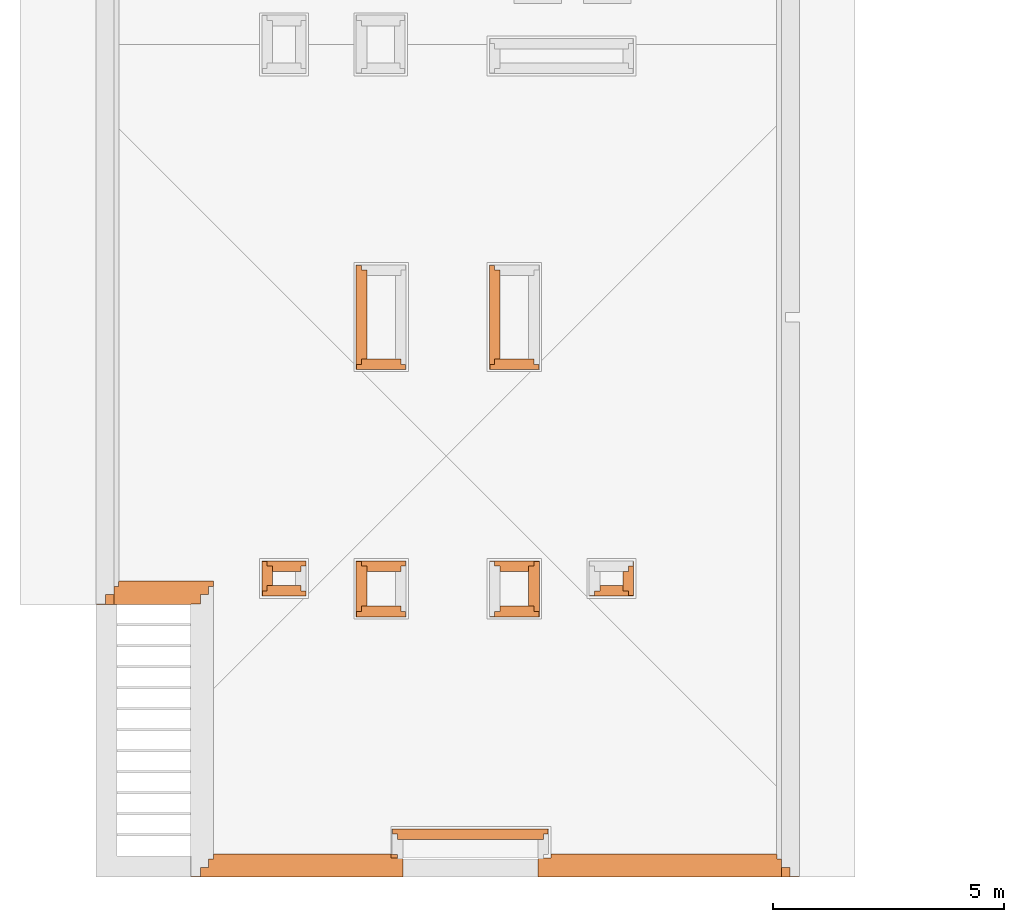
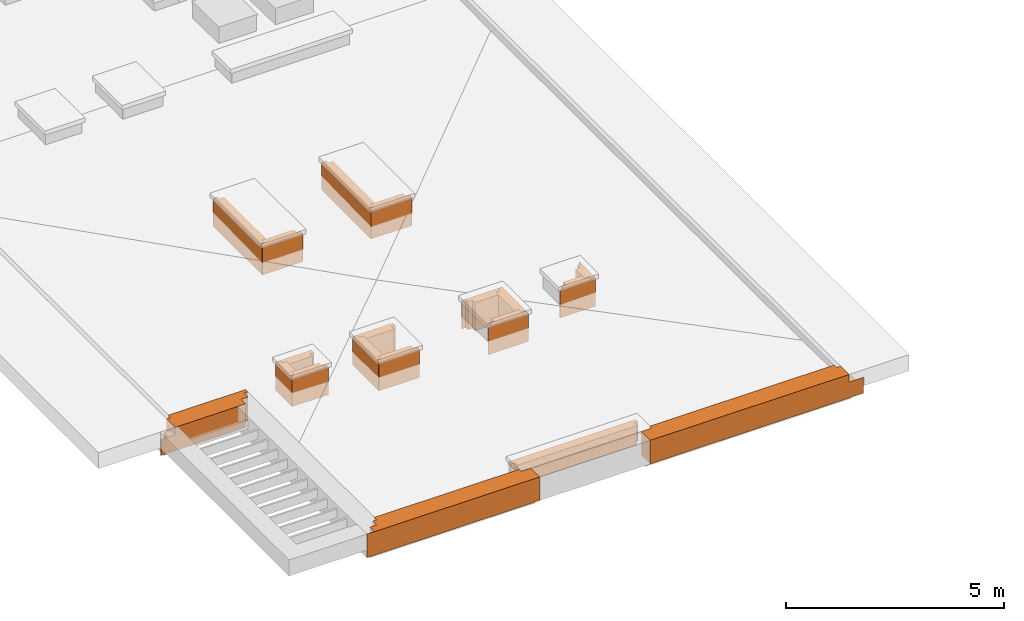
# One storey, part 7 of 16: 19 proxies.
"""IFC2X3 building model written with IfcOpenShell, lengths in millimetres."""

from ifc_helpers import new_model, entity, si_unit, converted_unit, derived_unit, money_unit, direction, frame, origin_with_axes, place, context, subcontext, project, spatial, faceted_brep, material, material_list, type_object, element, save


model = new_model("IFC2X3")

# Units and contexts
model_context = context("Model", 3, precision=0.01, world=origin_with_axes(), true_north=direction((0.34421633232, 0.938890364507)))
body_context = subcontext(model_context, "Body", "Model", "MODEL_VIEW")
ifc_project = project(units=[si_unit("LENGTHUNIT", "METRE", prefix="MILLI"), si_unit("AREAUNIT", "SQUARE_METRE"), si_unit("VOLUMEUNIT", "CUBIC_METRE"), converted_unit("PLANEANGLEUNIT", "DEGREE", entity("IfcPlaneAngleMeasure", 0.0174532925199), si_unit("PLANEANGLEUNIT", "RADIAN"), dimensions=[0, 0, 0, 0, 0, 0, 0]), si_unit("SOLIDANGLEUNIT", "STERADIAN"), money_unit("USD"), converted_unit("TIMEUNIT", "Year", entity("IfcTimeMeasure", 31556926.0), si_unit("TIMEUNIT", "SECOND"), dimensions=[0, 0, 1, 0, 0, 0, 0]), si_unit("MASSUNIT", "GRAM", prefix="KILO"), si_unit("THERMODYNAMICTEMPERATUREUNIT", "DEGREE_CELSIUS"), si_unit("LUMINOUSINTENSITYUNIT", "LUMEN"), si_unit("ENERGYUNIT", "JOULE", prefix="MEGA"), derived_unit("THERMALCONDUCTANCEUNIT", [(si_unit("POWERUNIT", "WATT"), 1), (si_unit("LENGTHUNIT", "METRE"), -1), (si_unit("THERMODYNAMICTEMPERATUREUNIT", "KELVIN"), -1)]), derived_unit("SPECIFICHEATCAPACITYUNIT", [(si_unit("ENERGYUNIT", "JOULE"), 1), (si_unit("MASSUNIT", "GRAM", prefix="KILO"), -1), (si_unit("THERMODYNAMICTEMPERATUREUNIT", "KELVIN"), -1)]), derived_unit("MASSDENSITYUNIT", [(si_unit("MASSUNIT", "GRAM", prefix="KILO"), 1), (si_unit("VOLUMEUNIT", "CUBIC_METRE"), -1)])], contexts=[model_context])

# Site, building, storey
site_placement = place(None, origin_with_axes())
site = spatial("IfcSite", under=ifc_project, at=site_placement, Name="USTRONIE MORSKIE", CompositionType="ELEMENT")
building_placement = place(site_placement, origin_with_axes())
building = spatial("IfcBuilding", under=site, at=building_placement, Name="Budynek", CompositionType="ELEMENT")
storey_placement = place(building_placement, frame((0.0, 0.0, 19000.0), z_axis=(0.0, 0.0, 1.0), x_axis=(1.0, 0.0, 0.0)))
storey = spatial("IfcBuildingStorey", under=building, at=storey_placement, Name="DACH", CompositionType="ELEMENT", Elevation=19000.0)

# Proxies
ifc_material_1 = material(Name="Tynk zewnętrzny")
ifc_material_2 = material(Name="Wełna ELEW")
ifc_material_3 = material(Name="Bloczki silikatowe")
ifc_material_list_1 = material_list([ifc_material_1, ifc_material_2, ifc_material_3, ifc_material_2, ifc_material_1])
building_element_proxy_type_1 = type_object("IfcBuildingElementProxyType", Name="18 SILIKAT+20-10 500", PredefinedType="NOTDEFINED")
proxy_1_placement = place(storey_placement, frame((353217.920919, 709101.199036, -160.0), z_axis=(0.0, 0.0, 1.0), x_axis=(1.0, 0.0, 0.0)))
element("IfcBuildingElementProxy", 1, at=proxy_1_placement, inside=storey, type_object=building_element_proxy_type_1, material=ifc_material_list_1, Name="Œciana-006", context=body_context, shape_type="Brep", body=[
    faceted_brep([(4120.00158398, 290.0, 660.0), (4120.00158398, 290.0, 540.0), (4160.0, 290.0, 540.0), (4160.0, 290.0, 5.0), (290.0, 290.0, 5.0), (290.0, 290.0, 660.0), (4120.00158398, 280.0, 660.0), (4120.00158398, 280.0, 540.0), (4160.0, 280.0, 540.0), (4160.0, 280.0, 5.0), (290.0, 280.0, 5.0), (290.0, 280.0, 660.0)], [[[0, 1, 2, 3, 4, 5]], [[1, 0, 6, 7]], [[8, 2, 1, 7]], [[2, 8, 9, 3]], [[4, 3, 9, 10]], [[4, 10, 11, 5]], [[6, 0, 5, 11]], [[7, 6, 11, 10, 9, 8]]]),
    faceted_brep([(4380.0, 200.0, 540.0), (4380.0, 200.0, 660.0), (4380.0, 180.0, 660.0), (4380.0, 180.0, 540.0), (4120.00158398, 200.0, 660.0), (4260.0, 200.0, 540.0), (4120.00158398, 200.0, 540.0), (4120.00158398, 280.0, 660.0), (280.0, 280.0, 660.0), (280.0, 180.0, 660.0), (280.0, 180.0, 5.0), (4260.0, 180.0, 5.0), (4260.0, 180.0, 540.0), (4260.0, 280.0, 540.0), (4120.00158398, 280.0, 540.0), (4260.0, 280.0, 5.0), (280.0, 280.0, 5.0)], [[[0, 1, 2, 3]], [[4, 1, 0, 5, 6]], [[4, 7, 8, 9, 2, 1]], [[10, 11, 12, 3, 2, 9]], [[5, 0, 3, 12]], [[5, 13, 14, 6]], [[14, 7, 4, 6]], [[14, 13, 15, 16, 8, 7]], [[16, 10, 9, 8]], [[16, 15, 11, 10]], [[13, 5, 12, 11, 15]]]),
    faceted_brep([(4380.0, 0.0, 0.0), (180.0, 0.0, 0.0), (180.0, 180.0, 0.0), (4380.0, 180.0, 0.0), (4380.0, 0.0, 660.0), (180.0, 0.0, 660.0), (180.0, 180.0, 660.0), (4380.0, 180.0, 660.0)], [[[0, 1, 2, 3]], [[4, 5, 1, 0]], [[6, 2, 1, 5]], [[3, 2, 6, 7]], [[7, 4, 0, 3]], [[7, 6, 5, 4]]]),
    faceted_brep([(0.0, -200.0, 0.0), (0.0, 0.0, 0.0), (4380.0, 0.0, 0.0), (4380.0, -200.0, 0.0), (0.0, -200.0, 660.0), (0.0, 0.0, 660.0), (4380.0, 0.0, 660.0), (4380.0, -200.0, 660.0)], [[[0, 1, 2, 3]], [[1, 0, 4, 5]], [[1, 5, 6, 2]], [[7, 3, 2, 6]], [[4, 0, 3, 7]], [[5, 4, 7, 6]]]),
    faceted_brep([(-200.0, -210.0, 0.0), (-200.0, -200.0, 0.0), (4380.0, -200.0, 0.0), (4380.0, -210.0, 0.0), (-200.0, -210.0, 660.0), (-200.0, -200.0, 660.0), (4380.0, -200.0, 660.0), (4380.0, -210.0, 660.0)], [[[0, 1, 2, 3]], [[1, 0, 4, 5]], [[1, 5, 6, 2]], [[7, 3, 2, 6]], [[4, 0, 3, 7]], [[5, 4, 7, 6]]]),
])
proxy_2_placement = place(storey_placement, frame((351167.920919, 715001.199036, -160.0), z_axis=(0.0, 0.0, 1.0), x_axis=(1.0, 0.0, 0.0)))
element("IfcBuildingElementProxy", 2, at=proxy_2_placement, inside=storey, type_object=building_element_proxy_type_1, material=ifc_material_list_1, Name="Œciana-006", context=body_context, shape_type="Brep", body=[
    faceted_brep([(2340.0, 280.0, 5.0), (2340.0, 290.0, 5.0), (2340.0, 290.0, 660.0), (2340.0, 280.0, 660.0), (290.0, 290.0, 5.0), (290.0, 280.0, 5.0), (290.0, 290.0, 660.0), (290.0, 280.0, 660.0)], [[[0, 1, 2, 3]], [[4, 1, 0, 5]], [[1, 4, 6, 2]], [[3, 2, 6, 7]], [[5, 0, 3, 7]], [[4, 5, 7, 6]]]),
    faceted_brep([(2330.0, 180.0, 5.0), (2330.0, 280.0, 5.0), (2330.0, 280.0, 660.0), (2330.0, 180.0, 660.0), (280.0, 280.0, 5.0), (280.0, 180.0, 5.0), (280.0, 280.0, 660.0), (280.0, 180.0, 660.0)], [[[0, 1, 2, 3]], [[4, 1, 0, 5]], [[1, 4, 6, 2]], [[3, 2, 6, 7]], [[5, 0, 3, 7]], [[4, 5, 7, 6]]]),
    faceted_brep([(2230.0, 180.0, 0.0), (2230.0, 0.0, 0.0), (180.0, 0.0, 0.0), (180.0, 180.0, 0.0), (2230.0, 180.0, 660.0), (2230.0, 0.0, 660.0), (180.0, 0.0, 660.0), (180.0, 180.0, 660.0)], [[[0, 1, 2, 3]], [[1, 0, 4, 5]], [[1, 5, 6, 2]], [[7, 3, 2, 6]], [[4, 0, 3, 7]], [[5, 4, 7, 6]]]),
    faceted_brep([(0.0, 0.0, 450.0), (180.0, 0.0, 450.0), (180.0, 0.0, 660.0), (2050.0, 0.0, 660.0), (2050.0, 0.0, 0.0), (0.0, 0.0, 0.0), (0.0, -200.0, 450.0), (180.0, -200.0, 450.0), (180.0, -200.0, 660.0), (2050.0, -200.0, 660.0), (2050.0, -200.0, 0.0), (0.0, -200.0, 0.0)], [[[0, 1, 2, 3, 4, 5]], [[1, 0, 6, 7]], [[2, 1, 7, 8]], [[2, 8, 9, 3]], [[10, 4, 3, 9]], [[4, 10, 11, 5]], [[6, 0, 5, 11]], [[7, 6, 11, 10, 9, 8]]]),
    faceted_brep([(-200.0, -200.0, 450.0), (180.0, -200.0, 450.0), (180.0, -200.0, 660.0), (1850.0, -200.0, 660.0), (1850.0, -200.0, 0.0), (-200.0, -200.0, 0.0), (-200.0, -210.0, 450.0), (180.0, -210.0, 450.0), (180.0, -210.0, 660.0), (1850.0, -210.0, 660.0), (1850.0, -210.0, 0.0), (-200.0, -210.0, 0.0)], [[[0, 1, 2, 3, 4, 5]], [[1, 0, 6, 7]], [[2, 1, 7, 8]], [[2, 8, 9, 3]], [[10, 4, 3, 9]], [[4, 10, 11, 5]], [[6, 0, 5, 11]], [[7, 6, 11, 10, 9, 8]]]),
])
proxy_3_placement = place(storey_placement, frame((360517.919335, 709101.199036, -160.0), z_axis=(0.0, 0.0, 1.0), x_axis=(1.0, 0.0, 0.0)))
element("IfcBuildingElementProxy", 3, at=proxy_3_placement, inside=storey, type_object=building_element_proxy_type_1, material=ifc_material_list_1, Name="Œciana-006", context=body_context, shape_type="Brep", body=[
    faceted_brep([(220.0, 290.0, 540.0), (280.001583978, 290.0, 540.0), (280.001583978, 290.0, 660.0), (5160.00158398, 290.0, 660.0), (5160.00158398, 290.0, 5.0), (220.0, 290.0, 5.0), (220.0, 280.0, 540.0), (280.001583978, 280.0, 540.0), (280.001583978, 280.0, 660.0), (5160.00158398, 280.0, 660.0), (5160.00158398, 280.0, 5.0), (220.0, 280.0, 5.0)], [[[0, 1, 2, 3, 4, 5]], [[1, 0, 6, 7]], [[8, 2, 1, 7]], [[2, 8, 9, 3]], [[10, 4, 3, 9]], [[5, 4, 10, 11]], [[6, 0, 5, 11]], [[7, 6, 11, 10, 9, 8]]]),
    faceted_brep([(120.0, 280.0, 540.0), (280.001583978, 280.0, 540.0), (280.001583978, 280.0, 660.0), (5170.00158398, 280.0, 660.0), (5170.00158398, 280.0, 5.0), (120.0, 280.0, 5.0), (120.0, 200.0, 540.0), (280.001583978, 200.0, 540.0), (280.001583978, 200.0, 660.0), (0.0, 200.0, 660.0), (0.0, 180.0, 660.0), (5170.00158398, 180.0, 660.0), (5170.00158398, 180.0, 5.0), (120.0, 180.0, 5.0), (120.0, 180.0, 540.0), (0.0, 200.0, 540.0), (0.0, 180.0, 540.0)], [[[0, 1, 2, 3, 4, 5]], [[1, 0, 6, 7]], [[8, 2, 1, 7]], [[8, 9, 10, 11, 3, 2]], [[12, 4, 3, 11]], [[5, 4, 12, 13]], [[6, 0, 5, 13, 14]], [[9, 8, 7, 6, 15]], [[9, 15, 16, 10]], [[13, 12, 11, 10, 16, 14]], [[15, 6, 14, 16]]]),
    faceted_brep([(5270.00158398, 0.0, 0.0), (0.0, 0.0, 0.0), (0.0, 180.0, 0.0), (5270.00158398, 180.0, 0.0), (5270.00158398, 0.0, 660.0), (0.0, 0.0, 660.0), (0.0, 180.0, 660.0), (5270.00158398, 180.0, 660.0)], [[[0, 1, 2, 3]], [[4, 5, 1, 0]], [[1, 5, 6, 2]], [[3, 2, 6, 7]], [[7, 4, 0, 3]], [[7, 6, 5, 4]]]),
    faceted_brep([(5270.00158398, 0.0, 450.0), (5450.00158398, 0.0, 450.0), (5450.00158398, 0.0, 0.0), (0.0, 0.0, 0.0), (0.0, 0.0, 660.0), (5270.00158398, 0.0, 660.0), (5450.00158398, -200.0, 450.0), (5270.00158398, -200.0, 450.0), (5450.00158398, -200.0, 0.0), (0.0, -200.0, 0.0), (0.0, -200.0, 660.0), (5270.00158398, -200.0, 660.0)], [[[0, 1, 2, 3, 4, 5]], [[6, 1, 0, 7]], [[1, 6, 8, 2]], [[9, 3, 2, 8]], [[10, 4, 3, 9]], [[11, 5, 4, 10]], [[7, 0, 5, 11]], [[7, 11, 10, 9, 8, 6]]]),
    faceted_brep([(5270.00158398, -200.0, 450.0), (5650.00158398, -200.0, 450.0), (5650.00158398, -200.0, 0.0), (0.0, -200.0, 0.0), (0.0, -200.0, 660.0), (5270.00158398, -200.0, 660.0), (5650.00158398, -210.0, 450.0), (5270.00158398, -210.0, 450.0), (5650.00158398, -210.0, 0.0), (0.0, -210.0, 0.0), (0.0, -210.0, 660.0), (5270.00158398, -210.0, 660.0)], [[[0, 1, 2, 3, 4, 5]], [[6, 1, 0, 7]], [[1, 6, 8, 2]], [[9, 3, 2, 8]], [[10, 4, 3, 9]], [[11, 5, 4, 10]], [[7, 0, 5, 11]], [[7, 11, 10, 9, 8, 6]]]),
])
ifc_material_list_2 = material_list([ifc_material_1, ifc_material_2, ifc_material_3])
building_element_proxy_type_2 = type_object("IfcBuildingElementProxyType", Name="12+10 kominy 230", PredefinedType="NOTDEFINED")
proxy_4_placement = place(storey_placement, frame((354777.922503, 715501.199024, -160.0), z_axis=(0.0, 0.0, 1.0), x_axis=(1.0, 0.0, 0.0)))
element("IfcBuildingElementProxy", 4, at=proxy_4_placement, inside=storey, type_object=building_element_proxy_type_2, material=ifc_material_list_2, Name="Œciana-006", context=body_context, shape_type="Brep", body=[
    faceted_brep([(729.998416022, 220.0, 5.0), (729.998416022, 230.0, 5.0), (729.998416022, 230.0, 800.000001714), (729.998416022, 220.0, 800.000001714), (-220.0, 230.0, 5.0), (-220.0, 220.0, 5.0), (-220.0, 230.0, 800.000001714), (-220.0, 220.0, 800.000001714)], [[[0, 1, 2, 3]], [[4, 1, 0, 5]], [[1, 4, 6, 2]], [[3, 2, 6, 7]], [[5, 0, 3, 7]], [[4, 5, 7, 6]]]),
    faceted_brep([(719.998416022, 120.0, 5.0), (719.998416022, 220.0, 5.0), (719.998416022, 220.0, 800.000001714), (719.998416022, 120.0, 800.000001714), (-120.0, 220.0, 5.0), (-120.0, 120.0, 5.0), (-120.0, 220.0, 800.000001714), (-120.0, 120.0, 800.000001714)], [[[0, 1, 2, 3]], [[4, 1, 0, 5]], [[1, 4, 6, 2]], [[3, 2, 6, 7]], [[5, 0, 3, 7]], [[4, 5, 7, 6]]]),
    faceted_brep([(619.998416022, 0.0, 800.000001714), (619.998416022, 120.0, 800.000001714), (0.0, 120.0, 800.000001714), (0.0, 0.0, 800.000001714), (619.998416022, 0.0, 0.0), (619.998416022, 120.0, 0.0), (0.0, 120.0, 0.0), (0.0, 0.0, 0.0)], [[[0, 1, 2, 3]], [[1, 0, 4, 5]], [[1, 5, 6, 2]], [[7, 3, 2, 6]], [[4, 0, 3, 7]], [[5, 4, 7, 6]]]),
])
proxy_5_placement = place(storey_placement, frame((357597.920919, 709701.199036, -160.0), z_axis=(0.0, 0.0, 1.0), x_axis=(1.0, 0.0, 0.0)))
element("IfcBuildingElementProxy", 5, at=proxy_5_placement, inside=storey, type_object=building_element_proxy_type_2, material=ifc_material_list_2, Name="Œciana-006", context=body_context, shape_type="Brep", body=[
    faceted_brep([(3149.99841602, 220.0, 5.0), (3149.99841602, 230.0, 5.0), (3149.99841602, 230.0, 540.0), (3149.99841602, 220.0, 540.0), (-230.0, 230.0, 5.0), (-230.0, 220.0, 5.0), (-230.0, 230.0, 540.0), (-230.0, 220.0, 540.0)], [[[0, 1, 2, 3]], [[4, 1, 0, 5]], [[1, 4, 6, 2]], [[3, 2, 6, 7]], [[5, 0, 3, 7]], [[4, 5, 7, 6]]]),
    faceted_brep([(3139.99841602, 120.0, 5.0), (3139.99841602, 220.0, 5.0), (3139.99841602, 220.0, 540.0), (3139.99841602, 120.0, 540.0), (-220.0, 220.0, 5.0), (-220.0, 120.0, 5.0), (-220.0, 220.0, 540.0), (-220.0, 120.0, 540.0)], [[[0, 1, 2, 3]], [[4, 1, 0, 5]], [[1, 4, 6, 2]], [[3, 2, 6, 7]], [[5, 0, 3, 7]], [[4, 5, 7, 6]]]),
    faceted_brep([(3039.99841602, 0.0, 540.0), (3039.99841602, 120.0, 540.0), (-120.0, 120.0, 540.0), (-120.0, 0.0, 540.0), (3039.99841602, 0.0, 0.0), (3039.99841602, 120.0, 0.0), (-120.0, 120.0, 0.0), (-120.0, 0.0, 0.0)], [[[0, 1, 2, 3]], [[1, 0, 4, 5]], [[1, 5, 6, 2]], [[7, 3, 2, 6]], [[4, 0, 3, 7]], [[5, 4, 7, 6]]]),
])
proxy_6_placement = place(storey_placement, frame((359697.917526, 720101.199036, -160.0), z_axis=(0.0, 0.0, 1.0), x_axis=(0.0, 1.0, 0.0)))
element("IfcBuildingElementProxy", 6, at=proxy_6_placement, inside=storey, type_object=building_element_proxy_type_2, material=ifc_material_list_2, Name="Œciana-006", context=body_context, shape_type="Brep", body=[
    faceted_brep([(1600.0153809, 220.0, 5.0), (2030.0, 220.0, 5.0), (2030.0, 220.0, 800.000001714), (-220.0, 220.0, 800.000001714), (-220.0, 220.0, 5.0), (200.015380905, 220.0, 5.0), (2030.0, 230.0, 5.0), (1600.0153809, 230.0, 5.0), (2030.0, 230.0, 800.000001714), (-220.0, 230.0, 800.000001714), (-220.0, 230.0, 5.0), (200.015380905, 230.0, 5.0)], [[[0, 1, 2, 3, 4, 5]], [[6, 1, 0, 7]], [[1, 6, 8, 2]], [[2, 8, 9, 3]], [[10, 4, 3, 9]], [[11, 5, 4, 10]], [[7, 0, 5, 11]], [[6, 7, 11, 10, 9, 8]]]),
    faceted_brep([(2020.0, 120.0, 5.0), (2020.0, 120.0, 800.000001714), (-120.0, 120.0, 800.000001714), (-120.0, 120.0, 5.0), (2020.0, 220.0, 5.0), (2020.0, 220.0, 800.000001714), (-120.0, 220.0, 800.000001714), (-120.0, 220.0, 5.0)], [[[0, 1, 2, 3]], [[0, 4, 5, 1]], [[1, 5, 6, 2]], [[7, 3, 2, 6]], [[4, 0, 3, 7]], [[4, 7, 6, 5]]]),
    faceted_brep([(1920.0, 0.0, 800.000001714), (1920.0, 120.0, 800.000001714), (0.0, 120.0, 800.000001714), (0.0, 0.0, 800.000001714), (1920.0, 0.0, 0.0), (1920.0, 120.0, 0.0), (0.0, 120.0, 0.0), (0.0, 0.0, 0.0)], [[[0, 1, 2, 3]], [[1, 0, 4, 5]], [[1, 5, 6, 2]], [[7, 3, 2, 6]], [[4, 0, 3, 7]], [[5, 4, 7, 6]]]),
])
proxy_7_placement = place(storey_placement, frame((356817.920919, 715501.199481, -160.0), z_axis=(0.0, 0.0, 1.0), x_axis=(1.0, 0.0, 0.0)))
element("IfcBuildingElementProxy", 7, at=proxy_7_placement, inside=storey, type_object=building_element_proxy_type_2, material=ifc_material_list_2, Name="Œciana-006", context=body_context, shape_type="Brep", body=[
    faceted_brep([(850.0, 220.0, 5.0), (850.0, 230.0, 5.0), (850.0, 230.0, 800.000001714), (850.0, 220.0, 800.000001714), (-220.0, 230.0, 5.0), (-220.0, 220.0, 5.0), (-220.0, 230.0, 800.000001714), (-220.0, 220.0, 800.000001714)], [[[0, 1, 2, 3]], [[4, 1, 0, 5]], [[1, 4, 6, 2]], [[3, 2, 6, 7]], [[5, 0, 3, 7]], [[4, 5, 7, 6]]]),
    faceted_brep([(840.0, 120.0, 5.0), (840.0, 220.0, 5.0), (840.0, 220.0, 800.000001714), (840.0, 120.0, 800.000001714), (-120.0, 220.0, 5.0), (-120.0, 120.0, 5.0), (-120.0, 220.0, 800.000001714), (-120.0, 120.0, 800.000001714)], [[[0, 1, 2, 3]], [[4, 1, 0, 5]], [[1, 4, 6, 2]], [[3, 2, 6, 7]], [[5, 0, 3, 7]], [[4, 5, 7, 6]]]),
    faceted_brep([(740.0, 0.0, 800.000001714), (740.0, 120.0, 800.000001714), (0.0, 120.0, 800.000001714), (0.0, 0.0, 800.000001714), (740.0, 0.0, 0.0), (740.0, 120.0, 0.0), (0.0, 120.0, 0.0), (0.0, 0.0, 0.0)], [[[0, 1, 2, 3]], [[1, 0, 4, 5]], [[1, 5, 6, 2]], [[7, 3, 2, 6]], [[4, 0, 3, 7]], [[5, 4, 7, 6]]]),
])
proxy_8_placement = place(storey_placement, frame((360317.920919, 720101.199036, -160.0), z_axis=(0.0, 0.0, 1.0), x_axis=(-1.0, 0.0, 0.0)))
element("IfcBuildingElementProxy", 8, at=proxy_8_placement, inside=storey, type_object=building_element_proxy_type_2, material=ifc_material_list_2, Name="Œciana-006", context=body_context, shape_type="Brep", body=[
    faceted_brep([(-230.0, 230.0, 5.0), (-230.0, 220.0, 5.0), (-230.0, 220.0, 800.000001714), (-230.0, 230.0, 800.000001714), (850.003392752, 220.0, 5.0), (850.003392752, 230.0, 5.0), (850.003392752, 220.0, 800.000001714), (850.003392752, 230.0, 800.000001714)], [[[0, 1, 2, 3]], [[4, 1, 0, 5]], [[1, 4, 6, 2]], [[6, 7, 3, 2]], [[5, 0, 3, 7]], [[4, 5, 7, 6]]]),
    faceted_brep([(-220.0, 220.0, 5.0), (-220.0, 120.0, 5.0), (-220.0, 120.0, 800.000001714), (-220.0, 220.0, 800.000001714), (840.003392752, 120.0, 5.0), (840.003392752, 220.0, 5.0), (840.003392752, 120.0, 800.000001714), (840.003392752, 220.0, 800.000001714)], [[[0, 1, 2, 3]], [[4, 1, 0, 5]], [[1, 4, 6, 2]], [[6, 7, 3, 2]], [[5, 0, 3, 7]], [[4, 5, 7, 6]]]),
    faceted_brep([(740.003392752, 0.0, 800.000001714), (740.003392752, 120.0, 800.000001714), (-120.0, 120.0, 800.000001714), (-120.0, 0.0, 800.000001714), (740.003392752, 0.0, 0.0), (740.003392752, 120.0, 0.0), (-120.0, 120.0, 0.0), (-120.0, 0.0, 0.0)], [[[0, 1, 2, 3]], [[1, 0, 4, 5]], [[1, 5, 6, 2]], [[7, 3, 2, 6]], [[4, 0, 3, 7]], [[5, 4, 7, 6]]]),
])
ifc_material_list_3 = material_list([ifc_material_3, ifc_material_2, ifc_material_1])
proxy_9_placement = place(storey_placement, frame((362357.920919, 715201.190644, -160.0), z_axis=(0.0, 0.0, 1.0), x_axis=(0.0, 1.0, 0.0)))
element("IfcBuildingElementProxy", 9, at=proxy_9_placement, inside=storey, type_object=building_element_proxy_type_2, material=ifc_material_list_3, Name="Œciana-006", context=body_context, shape_type="Brep", body=[
    faceted_brep([(300.008836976, 0.0, 0.0), (300.008836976, -120.0, 0.0), (-120.0, -120.0, 0.0), (-120.0, 0.0, 0.0), (300.008836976, 0.0, 800.000001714), (300.008836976, -120.0, 800.000001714), (-120.0, -120.0, 800.000001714), (-120.0, 0.0, 800.000001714)], [[[0, 1, 2, 3]], [[1, 0, 4, 5]], [[1, 5, 6, 2]], [[7, 3, 2, 6]], [[4, 0, 3, 7]], [[5, 4, 7, 6]]]),
    faceted_brep([(-220.0, -220.0, 5.0), (420.008836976, -220.0, 5.0), (420.008836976, -220.0, 800.000001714), (-220.0, -220.0, 800.000001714), (420.008836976, -120.0, 5.0), (-220.0, -120.0, 5.0), (420.008836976, -120.0, 800.000001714), (-220.0, -120.0, 800.000001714)], [[[0, 1, 2, 3]], [[4, 1, 0, 5]], [[1, 4, 6, 2]], [[2, 6, 7, 3]], [[5, 0, 3, 7]], [[4, 5, 7, 6]]]),
    faceted_brep([(-230.0, -230.0, 5.0), (520.008836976, -230.0, 5.0), (520.008836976, -230.0, 800.000001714), (-230.0, -230.0, 800.000001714), (520.008836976, -220.0, 5.0), (-230.0, -220.0, 5.0), (520.008836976, -220.0, 800.000001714), (-230.0, -220.0, 800.000001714)], [[[0, 1, 2, 3]], [[4, 1, 0, 5]], [[1, 4, 6, 2]], [[2, 6, 7, 3]], [[5, 0, 3, 7]], [[4, 5, 7, 6]]]),
])
proxy_10_placement = place(storey_placement, frame((359697.921119, 714751.197058, -160.0), z_axis=(0.0, 0.0, 1.0), x_axis=(1.0, 0.0, 0.0)))
element("IfcBuildingElementProxy", 10, at=proxy_10_placement, inside=storey, type_object=building_element_proxy_type_2, material=ifc_material_list_3, Name="Œciana-006", context=body_context, shape_type="Brep", body=[
    faceted_brep([(740.00070126, 0.0, 0.0), (740.00070126, -120.0, 0.0), (0.0, -120.0, 0.0), (0.0, 0.0, 0.0), (740.00070126, 0.0, 800.000001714), (740.00070126, -120.0, 800.000001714), (0.0, -120.0, 800.000001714), (0.0, 0.0, 800.000001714)], [[[0, 1, 2, 3]], [[1, 0, 4, 5]], [[1, 5, 6, 2]], [[7, 3, 2, 6]], [[4, 0, 3, 7]], [[5, 4, 7, 6]]]),
    faceted_brep([(840.00070126, -220.0, 5.0), (840.00070126, -120.0, 5.0), (840.00070126, -120.0, 800.000001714), (840.00070126, -220.0, 800.000001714), (-120.0, -120.0, 5.0), (-120.0, -220.0, 5.0), (-120.0, -120.0, 800.000001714), (-120.0, -220.0, 800.000001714)], [[[0, 1, 2, 3]], [[4, 1, 0, 5]], [[1, 4, 6, 2]], [[3, 2, 6, 7]], [[5, 0, 3, 7]], [[4, 5, 7, 6]]]),
    faceted_brep([(850.00070126, -230.0, 5.0), (850.00070126, -220.0, 5.0), (850.00070126, -220.0, 800.000001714), (850.00070126, -230.0, 800.000001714), (-220.0, -220.0, 5.0), (-220.0, -230.0, 5.0), (-220.0, -220.0, 800.000001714), (-220.0, -230.0, 800.000001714)], [[[0, 1, 2, 3]], [[4, 1, 0, 5]], [[1, 4, 6, 2]], [[3, 2, 6, 7]], [[5, 0, 3, 7]], [[4, 5, 7, 6]]]),
])
proxy_11_placement = place(storey_placement, frame((356817.920919, 720101.199036, -160.0), z_axis=(0.0, 0.0, 1.0), x_axis=(0.0, 1.0, 0.0)))
element("IfcBuildingElementProxy", 11, at=proxy_11_placement, inside=storey, type_object=building_element_proxy_type_2, material=ifc_material_list_2, Name="Œciana-006", context=body_context, shape_type="Brep", body=[
    faceted_brep([(1600.0153809, 220.0, 5.0), (2030.0, 220.0, 5.0), (2030.0, 220.0, 800.000001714), (-220.0, 220.0, 800.000001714), (-220.0, 220.0, 5.0), (200.015380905, 220.0, 5.0), (2030.0, 230.0, 5.0), (1600.0153809, 230.0, 5.0), (2030.0, 230.0, 800.000001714), (-220.0, 230.0, 800.000001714), (-220.0, 230.0, 5.0), (200.015380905, 230.0, 5.0)], [[[0, 1, 2, 3, 4, 5]], [[6, 1, 0, 7]], [[1, 6, 8, 2]], [[2, 8, 9, 3]], [[10, 4, 3, 9]], [[11, 5, 4, 10]], [[7, 0, 5, 11]], [[6, 7, 11, 10, 9, 8]]]),
    faceted_brep([(2020.0, 120.0, 5.0), (2020.0, 120.0, 800.000001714), (-120.0, 120.0, 800.000001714), (-120.0, 120.0, 5.0), (2020.0, 220.0, 5.0), (2020.0, 220.0, 800.000001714), (-120.0, 220.0, 800.000001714), (-120.0, 220.0, 5.0)], [[[0, 1, 2, 3]], [[0, 4, 5, 1]], [[1, 5, 6, 2]], [[7, 3, 2, 6]], [[4, 0, 3, 7]], [[4, 7, 6, 5]]]),
    faceted_brep([(1920.0, 0.0, 800.000001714), (1920.0, 120.0, 800.000001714), (0.0, 120.0, 800.000001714), (0.0, 0.0, 800.000001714), (1920.0, 0.0, 0.0), (1920.0, 120.0, 0.0), (0.0, 120.0, 0.0), (0.0, 0.0, 0.0)], [[[0, 1, 2, 3]], [[1, 0, 4, 5]], [[1, 5, 6, 2]], [[7, 3, 2, 6]], [[4, 0, 3, 7]], [[5, 4, 7, 6]]]),
])
proxy_12_placement = place(storey_placement, frame((357437.920896, 720101.199036, -160.0), z_axis=(0.0, 0.0, 1.0), x_axis=(-1.0, 0.0, 0.0)))
element("IfcBuildingElementProxy", 12, at=proxy_12_placement, inside=storey, type_object=building_element_proxy_type_2, material=ifc_material_list_2, Name="Œciana-006", context=body_context, shape_type="Brep", body=[
    faceted_brep([(-230.0, 230.0, 5.0), (-230.0, 220.0, 5.0), (-230.0, 220.0, 800.000001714), (-230.0, 230.0, 800.000001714), (849.99997673, 220.0, 5.0), (849.99997673, 230.0, 5.0), (849.99997673, 220.0, 800.000001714), (849.99997673, 230.0, 800.000001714)], [[[0, 1, 2, 3]], [[4, 1, 0, 5]], [[1, 4, 6, 2]], [[6, 7, 3, 2]], [[5, 0, 3, 7]], [[4, 5, 7, 6]]]),
    faceted_brep([(-220.0, 220.0, 5.0), (-220.0, 120.0, 5.0), (-220.0, 120.0, 800.000001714), (-220.0, 220.0, 800.000001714), (839.99997673, 120.0, 5.0), (839.99997673, 220.0, 5.0), (839.99997673, 120.0, 800.000001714), (839.99997673, 220.0, 800.000001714)], [[[0, 1, 2, 3]], [[4, 1, 0, 5]], [[1, 4, 6, 2]], [[6, 7, 3, 2]], [[5, 0, 3, 7]], [[4, 5, 7, 6]]]),
    faceted_brep([(739.99997673, 0.0, 800.000001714), (739.99997673, 120.0, 800.000001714), (-120.0, 120.0, 800.000001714), (-120.0, 0.0, 800.000001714), (739.99997673, 0.0, 0.0), (739.99997673, 120.0, 0.0), (-120.0, 120.0, 0.0), (-120.0, 0.0, 0.0)], [[[0, 1, 2, 3]], [[1, 0, 4, 5]], [[1, 5, 6, 2]], [[7, 3, 2, 6]], [[4, 0, 3, 7]], [[5, 4, 7, 6]]]),
])
proxy_13_placement = place(storey_placement, frame((356817.920919, 714751.197058, -160.0), z_axis=(0.0, 0.0, 1.0), x_axis=(0.0, 1.0, 0.0)))
element("IfcBuildingElementProxy", 13, at=proxy_13_placement, inside=storey, type_object=building_element_proxy_type_2, material=ifc_material_list_2, Name="Œciana-006", context=body_context, shape_type="Brep", body=[
    faceted_brep([(-220.0, 220.0, 5.0), (980.00242246, 220.0, 5.0), (980.00242246, 220.0, 800.000001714), (-220.0, 220.0, 800.000001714), (980.00242246, 230.0, 5.0), (-220.0, 230.0, 5.0), (980.00242246, 230.0, 800.000001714), (-220.0, 230.0, 800.000001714)], [[[0, 1, 2, 3]], [[4, 1, 0, 5]], [[1, 4, 6, 2]], [[2, 6, 7, 3]], [[5, 0, 3, 7]], [[4, 5, 7, 6]]]),
    faceted_brep([(-120.0, 120.0, 5.0), (970.00242246, 120.0, 5.0), (970.00242246, 120.0, 800.000001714), (-120.0, 120.0, 800.000001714), (970.00242246, 220.0, 5.0), (-120.0, 220.0, 5.0), (970.00242246, 220.0, 800.000001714), (-120.0, 220.0, 800.000001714)], [[[0, 1, 2, 3]], [[4, 1, 0, 5]], [[1, 4, 6, 2]], [[2, 6, 7, 3]], [[5, 0, 3, 7]], [[4, 5, 7, 6]]]),
    faceted_brep([(870.00242246, 0.0, 800.000001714), (870.00242246, 120.0, 800.000001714), (0.0, 120.0, 800.000001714), (0.0, 0.0, 800.000001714), (870.00242246, 0.0, 0.0), (870.00242246, 120.0, 0.0), (0.0, 120.0, 0.0), (0.0, 0.0, 0.0)], [[[0, 1, 2, 3]], [[1, 0, 4, 5]], [[1, 5, 6, 2]], [[7, 3, 2, 6]], [[4, 0, 3, 7]], [[5, 4, 7, 6]]]),
])
proxy_14_placement = place(storey_placement, frame((355277.920919, 715201.192571, -160.0), z_axis=(0.0, 0.0, 1.0), x_axis=(-1.0, 0.0, 0.0)))
element("IfcBuildingElementProxy", 14, at=proxy_14_placement, inside=storey, type_object=building_element_proxy_type_2, material=ifc_material_list_2, Name="Œciana-006", context=body_context, shape_type="Brep", body=[
    faceted_brep([(-230.0, 230.0, 5.0), (-230.0, 220.0, 5.0), (-230.0, 220.0, 800.000001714), (-230.0, 230.0, 800.000001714), (729.998416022, 220.0, 5.0), (729.998416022, 230.0, 5.0), (729.998416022, 220.0, 800.000001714), (729.998416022, 230.0, 800.000001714)], [[[0, 1, 2, 3]], [[4, 1, 0, 5]], [[1, 4, 6, 2]], [[6, 7, 3, 2]], [[5, 0, 3, 7]], [[4, 5, 7, 6]]]),
    faceted_brep([(-220.0, 220.0, 5.0), (-220.0, 120.0, 5.0), (-220.0, 120.0, 800.000001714), (-220.0, 220.0, 800.000001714), (719.998416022, 120.0, 5.0), (719.998416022, 220.0, 5.0), (719.998416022, 120.0, 800.000001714), (719.998416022, 220.0, 800.000001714)], [[[0, 1, 2, 3]], [[4, 1, 0, 5]], [[1, 4, 6, 2]], [[6, 7, 3, 2]], [[5, 0, 3, 7]], [[4, 5, 7, 6]]]),
    faceted_brep([(619.998416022, 0.0, 800.000001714), (619.998416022, 120.0, 800.000001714), (-120.0, 120.0, 800.000001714), (-120.0, 0.0, 800.000001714), (619.998416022, 0.0, 0.0), (619.998416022, 120.0, 0.0), (-120.0, 120.0, 0.0), (-120.0, 0.0, 0.0)], [[[0, 1, 2, 3]], [[1, 0, 4, 5]], [[1, 5, 6, 2]], [[7, 3, 2, 6]], [[4, 0, 3, 7]], [[5, 4, 7, 6]]]),
])
proxy_15_placement = place(storey_placement, frame((357437.920919, 714751.197058, -160.0), z_axis=(0.0, 0.0, 1.0), x_axis=(-1.0, 0.0, 0.0)))
element("IfcBuildingElementProxy", 15, at=proxy_15_placement, inside=storey, type_object=building_element_proxy_type_2, material=ifc_material_list_2, Name="Œciana-006", context=body_context, shape_type="Brep", body=[
    faceted_brep([(-230.0, 230.0, 5.0), (-230.0, 220.0, 5.0), (-230.0, 220.0, 800.000001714), (-230.0, 230.0, 800.000001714), (850.0, 220.0, 5.0), (850.0, 230.0, 5.0), (850.0, 220.0, 800.000001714), (850.0, 230.0, 800.000001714)], [[[0, 1, 2, 3]], [[4, 1, 0, 5]], [[1, 4, 6, 2]], [[6, 7, 3, 2]], [[5, 0, 3, 7]], [[4, 5, 7, 6]]]),
    faceted_brep([(-220.0, 220.0, 5.0), (-220.0, 120.0, 5.0), (-220.0, 120.0, 800.000001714), (-220.0, 220.0, 800.000001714), (840.0, 120.0, 5.0), (840.0, 220.0, 5.0), (840.0, 120.0, 800.000001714), (840.0, 220.0, 800.000001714)], [[[0, 1, 2, 3]], [[4, 1, 0, 5]], [[1, 4, 6, 2]], [[6, 7, 3, 2]], [[5, 0, 3, 7]], [[4, 5, 7, 6]]]),
    faceted_brep([(740.0, 0.0, 800.000001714), (740.0, 120.0, 800.000001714), (-120.0, 120.0, 800.000001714), (-120.0, 0.0, 800.000001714), (740.0, 0.0, 0.0), (740.0, 120.0, 0.0), (-120.0, 120.0, 0.0), (-120.0, 0.0, 0.0)], [[[0, 1, 2, 3]], [[1, 0, 4, 5]], [[1, 5, 6, 2]], [[7, 3, 2, 6]], [[4, 0, 3, 7]], [[5, 4, 7, 6]]]),
])
proxy_16_placement = place(storey_placement, frame((354777.922503, 715201.192571, -160.0), z_axis=(0.0, 0.0, 1.0), x_axis=(0.0, 1.0, 0.0)))
element("IfcBuildingElementProxy", 16, at=proxy_16_placement, inside=storey, type_object=building_element_proxy_type_2, material=ifc_material_list_2, Name="Œciana-006", context=body_context, shape_type="Brep", body=[
    faceted_brep([(-220.0, 220.0, 5.0), (530.006452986, 220.0, 5.0), (530.006452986, 220.0, 800.000001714), (-220.0, 220.0, 800.000001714), (530.006452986, 230.0, 5.0), (-220.0, 230.0, 5.0), (530.006452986, 230.0, 800.000001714), (-220.0, 230.0, 800.000001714)], [[[0, 1, 2, 3]], [[4, 1, 0, 5]], [[1, 4, 6, 2]], [[2, 6, 7, 3]], [[5, 0, 3, 7]], [[4, 5, 7, 6]]]),
    faceted_brep([(-120.0, 120.0, 5.0), (520.006452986, 120.0, 5.0), (520.006452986, 120.0, 800.000001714), (-120.0, 120.0, 800.000001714), (520.006452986, 220.0, 5.0), (-120.0, 220.0, 5.0), (520.006452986, 220.0, 800.000001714), (-120.0, 220.0, 800.000001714)], [[[0, 1, 2, 3]], [[4, 1, 0, 5]], [[1, 4, 6, 2]], [[2, 6, 7, 3]], [[5, 0, 3, 7]], [[4, 5, 7, 6]]]),
    faceted_brep([(420.006452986, 0.0, 800.000001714), (420.006452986, 120.0, 800.000001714), (0.0, 120.0, 800.000001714), (0.0, 0.0, 800.000001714), (420.006452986, 0.0, 0.0), (420.006452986, 120.0, 0.0), (0.0, 120.0, 0.0), (0.0, 0.0, 0.0)], [[[0, 1, 2, 3]], [[1, 0, 4, 5]], [[1, 5, 6, 2]], [[7, 3, 2, 6]], [[4, 0, 3, 7]], [[5, 4, 7, 6]]]),
])
proxy_17_placement = place(storey_placement, frame((360317.92182, 714751.197058, -160.0), z_axis=(0.0, 0.0, 1.0), x_axis=(0.0, 1.0, 0.0)))
element("IfcBuildingElementProxy", 17, at=proxy_17_placement, inside=storey, type_object=building_element_proxy_type_2, material=ifc_material_list_3, Name="Œciana-006", context=body_context, shape_type="Brep", body=[
    faceted_brep([(870.00242246, 0.0, 0.0), (870.00242246, -120.0, 0.0), (0.0, -120.0, 0.0), (0.0, 0.0, 0.0), (870.00242246, 0.0, 800.000001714), (870.00242246, -120.0, 800.000001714), (0.0, -120.0, 800.000001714), (0.0, 0.0, 800.000001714)], [[[0, 1, 2, 3]], [[1, 0, 4, 5]], [[1, 5, 6, 2]], [[7, 3, 2, 6]], [[4, 0, 3, 7]], [[5, 4, 7, 6]]]),
    faceted_brep([(-120.0, -220.0, 5.0), (970.00242246, -220.0, 5.0), (970.00242246, -220.0, 800.000001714), (-120.0, -220.0, 800.000001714), (970.00242246, -120.0, 5.0), (-120.0, -120.0, 5.0), (970.00242246, -120.0, 800.000001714), (-120.0, -120.0, 800.000001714)], [[[0, 1, 2, 3]], [[4, 1, 0, 5]], [[1, 4, 6, 2]], [[2, 6, 7, 3]], [[5, 0, 3, 7]], [[4, 5, 7, 6]]]),
    faceted_brep([(-220.0, -230.0, 5.0), (980.00242246, -230.0, 5.0), (980.00242246, -230.0, 800.000001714), (-220.0, -230.0, 800.000001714), (980.00242246, -220.0, 5.0), (-220.0, -220.0, 5.0), (980.00242246, -220.0, 800.000001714), (-220.0, -220.0, 800.000001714)], [[[0, 1, 2, 3]], [[4, 1, 0, 5]], [[1, 4, 6, 2]], [[2, 6, 7, 3]], [[5, 0, 3, 7]], [[4, 5, 7, 6]]]),
])
proxy_18_placement = place(storey_placement, frame((360317.923374, 715501.199481, -160.0), z_axis=(0.0, 0.0, 1.0), x_axis=(-1.0, 0.0, 0.0)))
element("IfcBuildingElementProxy", 18, at=proxy_18_placement, inside=storey, type_object=building_element_proxy_type_2, material=ifc_material_list_3, Name="Œciana-006", context=body_context, shape_type="Brep", body=[
    faceted_brep([(620.002255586, 0.0, 0.0), (620.002255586, -120.0, 0.0), (0.00155432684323, -120.0, 0.0), (0.00155432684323, 0.0, 0.0), (620.002255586, 0.0, 800.000001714), (620.002255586, -120.0, 800.000001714), (0.00155432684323, -120.0, 800.000001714), (0.00155432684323, 0.0, 800.000001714)], [[[0, 1, 2, 3]], [[1, 0, 4, 5]], [[1, 5, 6, 2]], [[7, 3, 2, 6]], [[4, 0, 3, 7]], [[5, 4, 7, 6]]]),
    faceted_brep([(-119.998445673, -120.0, 5.0), (-119.998445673, -220.0, 5.0), (-119.998445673, -220.0, 800.000001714), (-119.998445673, -120.0, 800.000001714), (740.002255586, -220.0, 5.0), (740.002255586, -120.0, 5.0), (740.002255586, -220.0, 800.000001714), (740.002255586, -120.0, 800.000001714)], [[[0, 1, 2, 3]], [[4, 1, 0, 5]], [[1, 4, 6, 2]], [[6, 7, 3, 2]], [[5, 0, 3, 7]], [[4, 5, 7, 6]]]),
    faceted_brep([(-219.998445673, -220.0, 5.0), (-219.998445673, -230.0, 5.0), (-219.998445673, -230.0, 800.000001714), (-219.998445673, -220.0, 800.000001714), (840.002255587, -230.0, 5.0), (840.002255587, -220.0, 5.0), (840.002255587, -230.0, 800.000001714), (840.002255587, -220.0, 800.000001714)], [[[0, 1, 2, 3]], [[4, 1, 0, 5]], [[1, 4, 6, 2]], [[6, 7, 3, 2]], [[5, 0, 3, 7]], [[4, 5, 7, 6]]]),
])
proxy_19_placement = place(storey_placement, frame((361857.920919, 715201.190644, -160.0), z_axis=(0.0, 0.0, 1.0), x_axis=(1.0, 0.0, 0.0)))
element("IfcBuildingElementProxy", 19, at=proxy_19_placement, inside=storey, type_object=building_element_proxy_type_2, material=ifc_material_list_3, Name="Œciana-006", context=body_context, shape_type="Brep", body=[
    faceted_brep([(499.999999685, 0.0, 0.0), (499.999999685, -120.0, 0.0), (0.0, -120.0, 0.0), (0.0, 0.0, 0.0), (499.999999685, 0.0, 800.000001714), (499.999999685, -120.0, 800.000001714), (0.0, -120.0, 800.000001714), (0.0, 0.0, 800.000001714)], [[[0, 1, 2, 3]], [[1, 0, 4, 5]], [[1, 5, 6, 2]], [[7, 3, 2, 6]], [[4, 0, 3, 7]], [[5, 4, 7, 6]]]),
    faceted_brep([(619.999999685, -220.0, 5.0), (619.999999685, -120.0, 5.0), (619.999999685, -120.0, 800.000001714), (619.999999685, -220.0, 800.000001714), (-120.0, -120.0, 5.0), (-120.0, -220.0, 5.0), (-120.0, -120.0, 800.000001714), (-120.0, -220.0, 800.000001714)], [[[0, 1, 2, 3]], [[4, 1, 0, 5]], [[1, 4, 6, 2]], [[3, 2, 6, 7]], [[5, 0, 3, 7]], [[4, 5, 7, 6]]]),
    faceted_brep([(719.999999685, -230.0, 5.0), (719.999999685, -220.0, 5.0), (719.999999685, -220.0, 800.000001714), (719.999999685, -230.0, 800.000001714), (-220.0, -220.0, 5.0), (-220.0, -230.0, 5.0), (-220.0, -220.0, 800.000001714), (-220.0, -230.0, 800.000001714)], [[[0, 1, 2, 3]], [[4, 1, 0, 5]], [[1, 4, 6, 2]], [[3, 2, 6, 7]], [[5, 0, 3, 7]], [[4, 5, 7, 6]]]),
])

save(model, "model.ifc")
